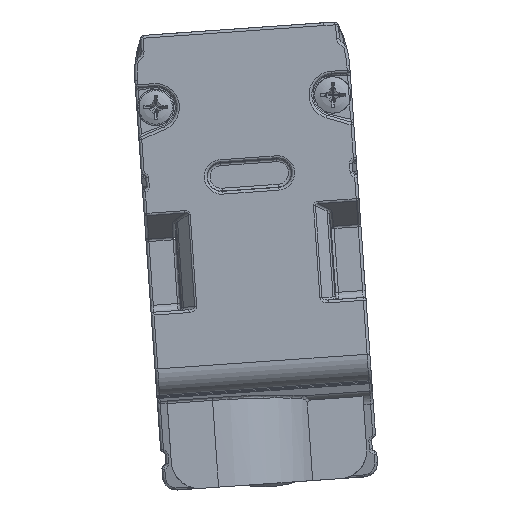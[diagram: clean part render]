
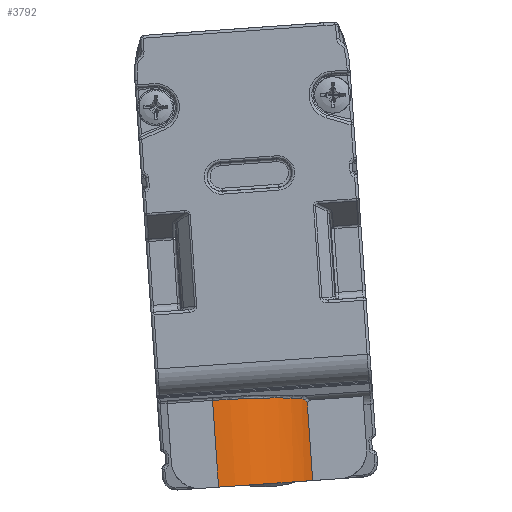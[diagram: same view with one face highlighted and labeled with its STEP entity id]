
A CAD part, front view. The second image highlights one B-rep face of the part: STEP entity #3792.
In plain terms, the highlighted cylindrical face has radius 7.5 mm (diameter 15 mm), a partial arc.
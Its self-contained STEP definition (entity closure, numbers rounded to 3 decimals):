
#135=ELLIPSE('',#22258,7.53,7.5);
#349=B_SPLINE_CURVE_WITH_KNOTS('',3,(#40492,#40493,#40494,#40495,#40496,
#40497,#40498),.UNSPECIFIED.,.F.,.F.,(4,3,4),(0.,0.485,1.),.UNSPECIFIED.);
#1073=CYLINDRICAL_SURFACE('',#22260,7.5);
#2598=CIRCLE('',#22259,7.5);
#3792=ADVANCED_FACE('',(#5123),#1073,.T.);
#5123=FACE_OUTER_BOUND('',#6198,.T.);
#6198=EDGE_LOOP('',(#9711,#9712,#9713,#9714,#9715));
#9711=ORIENTED_EDGE('',*,*,#16274,.T.);
#9712=ORIENTED_EDGE('',*,*,#16275,.T.);
#9713=ORIENTED_EDGE('',*,*,#16276,.T.);
#9714=ORIENTED_EDGE('',*,*,#16277,.T.);
#9715=ORIENTED_EDGE('',*,*,#16278,.F.);
#13391=VERTEX_POINT('',#40490);
#13392=VERTEX_POINT('',#40491);
#13393=VERTEX_POINT('',#40499);
#13394=VERTEX_POINT('',#40501);
#13395=VERTEX_POINT('',#40503);
#16274=EDGE_CURVE('',#13391,#13392,#18627,.T.);
#16275=EDGE_CURVE('',#13392,#13393,#349,.T.);
#16276=EDGE_CURVE('',#13393,#13394,#135,.T.);
#16277=EDGE_CURVE('',#13394,#13395,#18628,.T.);
#16278=EDGE_CURVE('',#13391,#13395,#2598,.T.);
#18627=LINE('',#40489,#20141);
#18628=LINE('',#40502,#20142);
#20141=VECTOR('',#26908,1.);
#20142=VECTOR('',#26911,1.);
#22258=AXIS2_PLACEMENT_3D('',#40500,#26909,#26910);
#22259=AXIS2_PLACEMENT_3D('',#40504,#26912,#26913);
#22260=AXIS2_PLACEMENT_3D('',#40505,#26914,#26915);
#26908=DIRECTION('',(-0.07,0.,0.998));
#26909=DIRECTION('',(0.069,-0.089,-0.994));
#26910=DIRECTION('',(0.006,0.996,-0.089));
#26911=DIRECTION('',(0.07,0.,-0.998));
#26912=DIRECTION('',(0.07,0.,-0.998));
#26913=DIRECTION('',(0.998,0.,0.07));
#26914=DIRECTION('',(0.07,0.,-0.998));
#26915=DIRECTION('',(0.,-1.,0.));
#40489=CARTESIAN_POINT('',(-40.701,-170.597,14.888));
#40490=CARTESIAN_POINT('',(-40.701,-170.597,14.888));
#40491=CARTESIAN_POINT('',(-41.088,-170.597,20.435));
#40492=CARTESIAN_POINT('',(-41.088,-170.597,20.435));
#40493=CARTESIAN_POINT('',(-41.139,-170.686,20.528));
#40494=CARTESIAN_POINT('',(-41.198,-170.793,20.603));
#40495=CARTESIAN_POINT('',(-41.263,-170.905,20.654));
#40496=CARTESIAN_POINT('',(-41.332,-171.024,20.708));
#40497=CARTESIAN_POINT('',(-41.408,-171.152,20.738));
#40498=CARTESIAN_POINT('',(-41.487,-171.278,20.743));
#40499=CARTESIAN_POINT('',(-41.487,-171.278,20.743));
#40500=CARTESIAN_POINT('',(-47.816,-167.318,19.944));
#40501=CARTESIAN_POINT('',(-47.863,-174.818,20.616));
#40502=CARTESIAN_POINT('',(-47.667,-174.818,17.815));
#40503=CARTESIAN_POINT('',(-47.43,-174.818,14.418));
#40504=CARTESIAN_POINT('',(-47.43,-167.318,14.418));
#40505=CARTESIAN_POINT('',(-52.434,-167.318,85.982));
